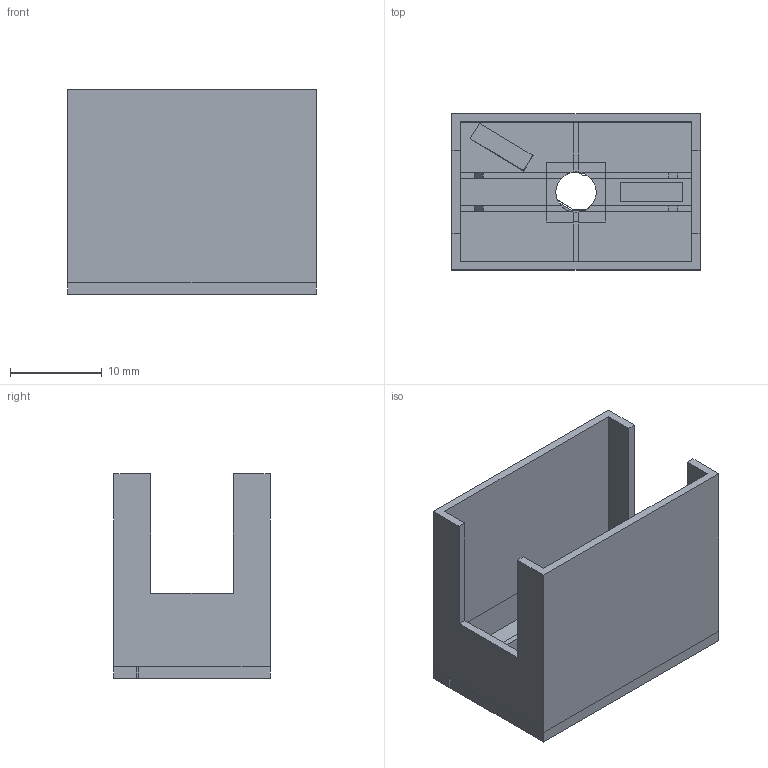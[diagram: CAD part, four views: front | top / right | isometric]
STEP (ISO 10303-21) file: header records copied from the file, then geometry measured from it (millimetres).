
FILE_DESCRIPTION(('FreeCAD Model'),'2;1');
FILE_NAME('Open CASCADE Shape Model','2024-03-19T22:03:09',(''),(''), 'Open CASCADE STEP processor 7.6','FreeCAD','Unknown');
FILE_SCHEMA(('AUTOMOTIVE_DESIGN { 1 0 10303 214 1 1 1 1 }'));
Length unit declared in the file: millimetre
Products named in the file (5): Kurve_mit_Taster; Body; Fahrstrasse; Ausleuchtung_1; Ausleuchtung_2
Assembly tree (4 placements, depth 2):
  Kurve_mit_Taster
    Body
    Fahrstrasse
    Ausleuchtung_1
    Ausleuchtung_2
Bounding box: 27 x 17 x 22.25 mm (x, y, z)
Volume: 2361.9 mm3; surface area: 4765.8 mm2
Topology: 4 solids, 4 shells, 143 faces, 360 edges, 223 vertices
Faces by surface type: plane 140, cylinder 3
Full cylindrical faces by diameter (mm): 4.4 x1
Entity records: 8983 total; most frequent: CARTESIAN_POINT 1475, DIRECTION 1394, LINE 1036, VECTOR 1036, ORIENTED_EDGE 720, PCURVE 720, DEFINITIONAL_REPRESENTATION 720, EDGE_CURVE 360
